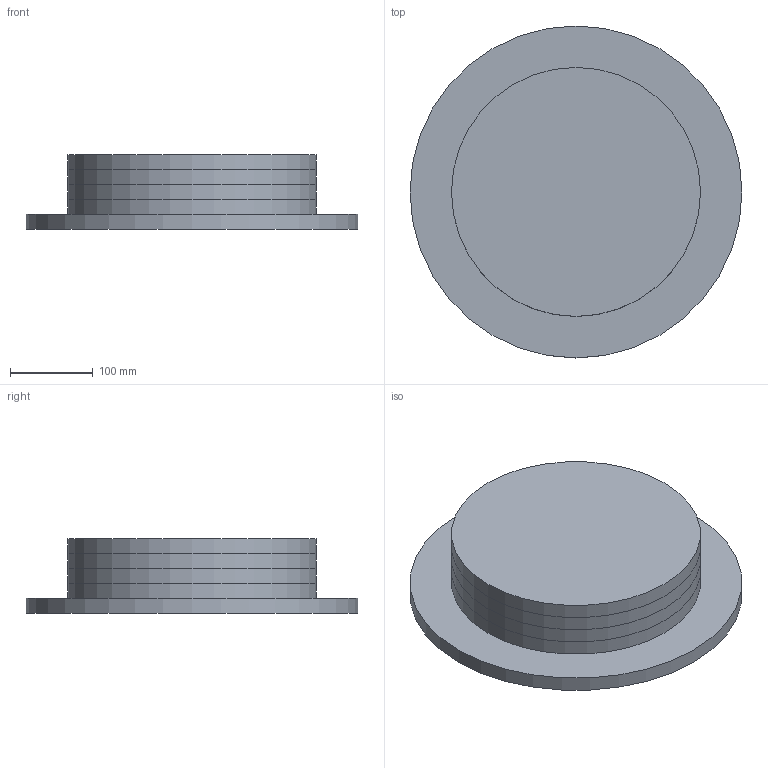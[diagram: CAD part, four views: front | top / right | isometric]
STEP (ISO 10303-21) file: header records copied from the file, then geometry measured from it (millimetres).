
FILE_DESCRIPTION(('Open CASCADE Model'),'2;1');
FILE_NAME('Open CASCADE Shape Model','2026-09-28T11:39:48',('Author'),( 'Open CASCADE'),'Open CASCADE STEP processor 7.9','Open CASCADE 7.9' ,'Unknown');
FILE_SCHEMA(('AUTOMOTIVE_DESIGN { 1 0 10303 214 1 1 1 1 }'));
Length unit declared in the file: millimetre
Products named in the file (6): disc-400-4x300; base; top-1; top-2; top-3; top-4
Assembly tree (5 placements, depth 2):
  disc-400-4x300
    base
    top-1
    top-2
    top-3
    top-4
Bounding box: 400 x 400 x 90 mm (x, y, z)
Volume: 7351326.8 mm3; surface area: 907292 mm2
Topology: 5 solids, 5 shells, 15 faces, 15 edges, 10 vertices
Faces by surface type: plane 10, cylinder 5
Full cylindrical faces by diameter (mm): 300 x4, 400 x1
Entity records: 607 total; most frequent: DIRECTION 97, CARTESIAN_POINT 76, AXIS2_PLACEMENT_3D 31, ORIENTED_EDGE 30, PCURVE 30, DEFINITIONAL_REPRESENTATION 30, LINE 25, VECTOR 25
